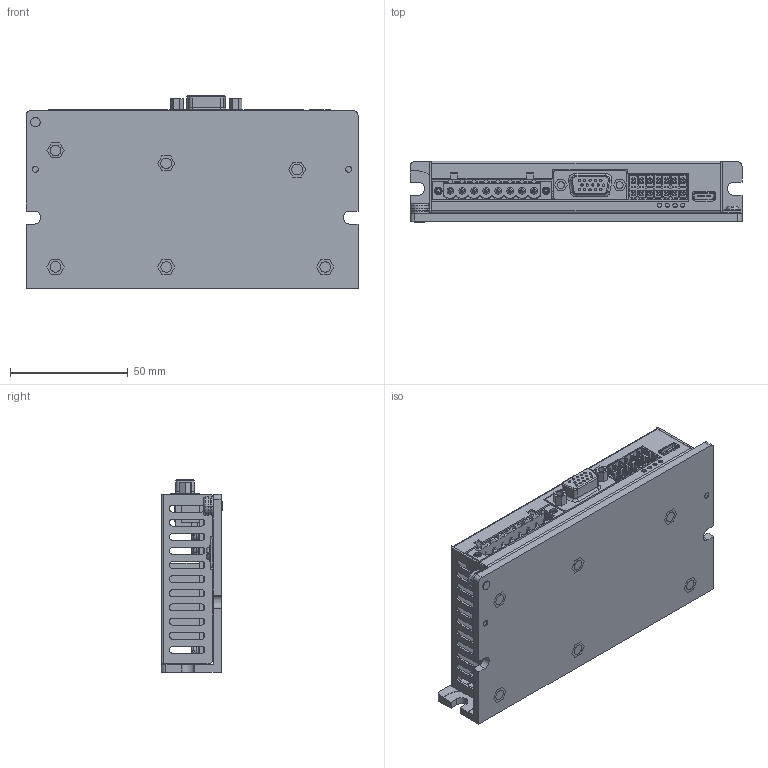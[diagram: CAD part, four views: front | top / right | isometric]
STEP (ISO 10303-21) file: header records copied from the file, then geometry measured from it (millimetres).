
FILE_DESCRIPTION((''),'2;1');
FILE_NAME('FD125-ASSEMBLY_DRAWING_1V3__ASM','2024-11-15T09:47:01',('唐'),(''),'CREO PARAMETRIC BY PTC INC, 2016510','CREO PARAMETRIC BY PTC INC, 2016510','');
FILE_SCHEMA(('CONFIG_CONTROL_DESIGN'));
Products named in the file (17): PCB_173; F8A-8-5_08-08P-5_83; CON_NETWORK_PORT_77; 9ZHEN-DAOLISHI_2_113; C165948_TYPE-C_109; F8CR-THR-3_5-14P-A-L28_85; PCB-ASM_ASM_225_ASM; HT-WU_145; BSO-M3X7_111; HT-WU_ASM_143_ASM; THERMAL_FD125_187; SCREW_JIEZI_M3X4_78; SCREW_M3X6_71; SCREW_M4X6_71; 000-FD125_ASM_273_ASM; FD125-EB-HS; FD125-ASSEMBLY_DRAWING_1V3__ASM
Assembly tree (27 placements, depth 4):
  FD125-ASSEMBLY_DRAWING_1V3__ASM
    000-FD125_ASM_273_ASM
      PCB-ASM_ASM_225_ASM
        PCB_173
        F8A-8-5_08-08P-5_83
        CON_NETWORK_PORT_77
        9ZHEN-DAOLISHI_2_113
        C165948_TYPE-C_109
        F8CR-THR-3_5-14P-A-L28_85
      HT-WU_ASM_143_ASM
        HT-WU_145
        BSO-M3X7_111  x6
      THERMAL_FD125_187
      SCREW_JIEZI_M3X4_78  x2
      SCREW_M3X6_71  x6
      SCREW_M4X6_71
    FD125-EB-HS
Bounding box: 141 x 26.1 x 81.7 mm (x, y, z)
Volume: 98442.5 mm3; surface area: 98923.2 mm2
Topology: 24 solids, 38 shells, 3371 faces, 8863 edges, 5726 vertices
Faces by surface type: plane 2130, cylinder 897, torus 186, bspline 84, cone 46, extrusion 28
Entity records: 91362 total; most frequent: CARTESIAN_POINT 20553, ORIENTED_EDGE 15058, DIRECTION 13917, EDGE_CURVE 7529, VECTOR 5565, LINE 5537, VERTEX_POINT 4896, AXIS2_PLACEMENT_3D 4176
